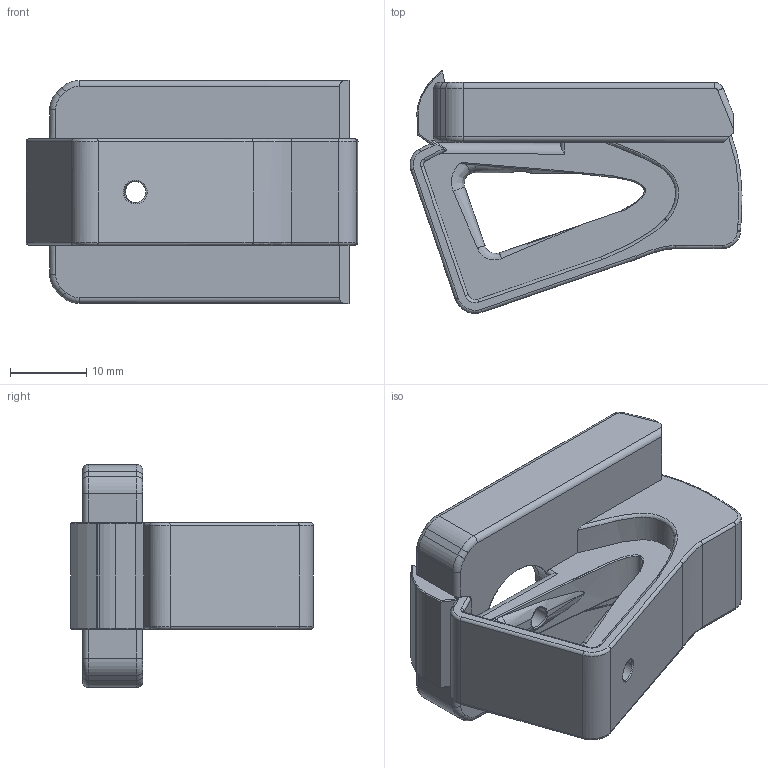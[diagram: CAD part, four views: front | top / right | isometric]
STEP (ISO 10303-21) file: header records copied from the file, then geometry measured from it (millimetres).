
FILE_DESCRIPTION(/* description */ (''),/* implementation_level */ '2;1');
FILE_NAME(/* name */ /* time_stamp */ '2021-03-26T20:24:46+01:00',/* author */ (''),/* organization */ (''),/* preprocessor_version */ 'ST-DEVELOPER v18.1',/* originating_system */ 'Autodesk Translation Framework v9.10.0.1330',/* authorisation */ '');
FILE_SCHEMA (('AUTOMOTIVE_DESIGN { 1 0 10303 214 3 1 1 }'));
Length unit declared in the file: millimetre
Products named in the file (1): Untitled
Bounding box: 43.59 x 31.87 x 29.29 mm (x, y, z)
Volume: 9131.6 mm3; surface area: 6623.7 mm2
Topology: 1 solids, 1 shells, 240 faces, 631 edges, 382 vertices
Faces by surface type: cylinder 83, bspline 73, plane 59, torus 25
Full cylindrical faces by diameter (mm): 2.826 x2, 11.684 x1
Entity records: 12396 total; most frequent: CARTESIAN_POINT 6984, ORIENTED_EDGE 1252, DIRECTION 943, EDGE_CURVE 626, VERTEX_POINT 381, AXIS2_PLACEMENT_3D 355, EDGE_LOOP 245, FACE_OUTER_BOUND 240
